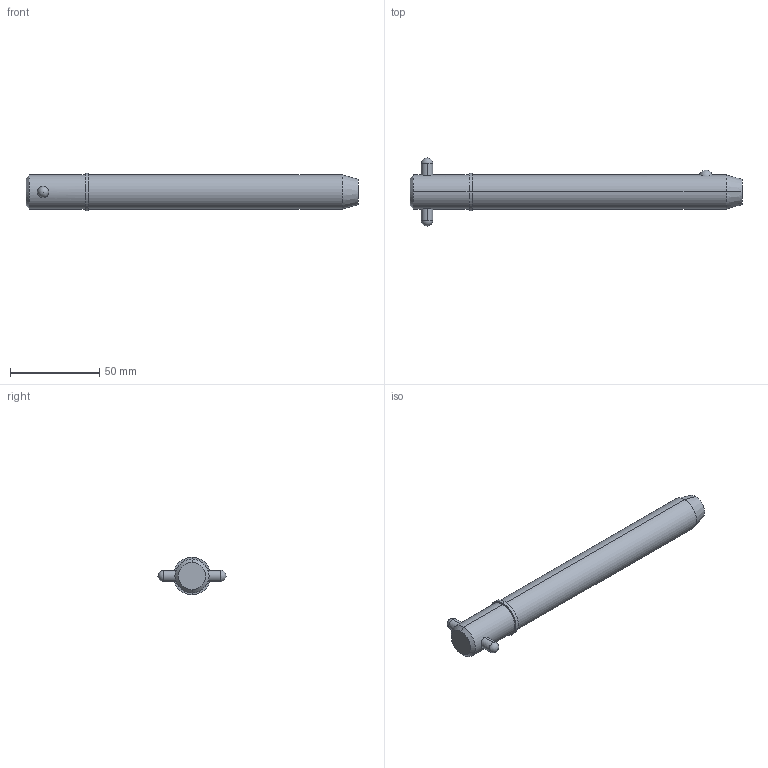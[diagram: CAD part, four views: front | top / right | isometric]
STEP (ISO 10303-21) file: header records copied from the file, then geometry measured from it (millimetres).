
FILE_DESCRIPTION (( 'STEP AP203' ), '1' );
FILE_NAME ('33018.W7550.step', '2024-11-19T17:21:00', ( '' ), ( '' ), 'SwSTEP 2.0', 'SolidWorks 2019', '' );
FILE_SCHEMA (( 'CONFIG_CONTROL_DESIGN' ));
Length unit declared in the file: millimetre
Products named in the file (3): Part2_33018.W7550; Part1_33018.W7550; 33018.W7550
Assembly tree (2 placements, depth 2):
  33018.W7550
    Part1_33018.W7550
    Part2_33018.W7550
Bounding box: 185.73 x 38.1 x 20.95 mm (x, y, z)
Volume: 52983.6 mm3; surface area: 12663.9 mm2
Topology: 2 solids, 2 shells, 22 faces, 47 edges, 30 vertices
Faces by surface type: cylinder 10, sphere 4, cone 4, plane 4
Entity records: 1041 total; most frequent: CARTESIAN_POINT 284, DIRECTION 110, ORIENTED_EDGE 82, AXIS2_PLACEMENT_3D 48, EDGE_CURVE 41, EDGE_LOOP 27, PERSON_AND_ORGANIZATION 26, VERTEX_POINT 26
